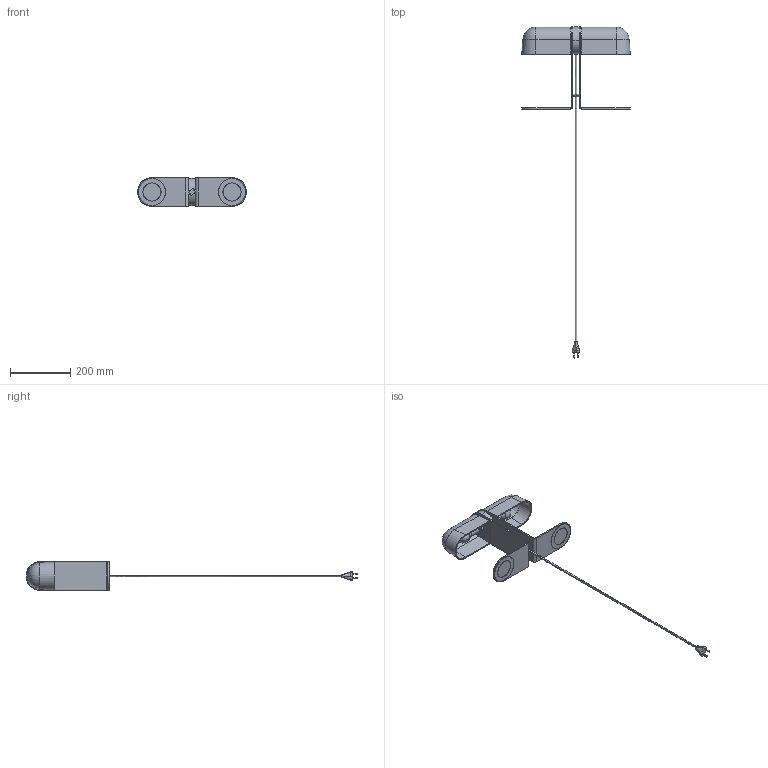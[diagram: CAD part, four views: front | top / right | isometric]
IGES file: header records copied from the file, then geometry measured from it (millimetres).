
Start section: SolidWorks IGES file using analytic representation for surfaces
Global section: file name: C:\SANTACOLE_PDM\Proyectos Catálogo\PROD-P17-006 -- LAMPARA ANDRE RICARD\6_Técnico comercial\3D\Duo CE UL.IGS; native system: SolidWorks 2021; preprocessor: SolidWorks 2021; author: clara.galimany; date: 221216.144452; units: millimetre
Bounding box: 360 x 1099 x 95 mm (x, y, z)
Surface area: 400803.5 mm2 (no closed solid volume)
Topology: 0 solids, 0 shells, 1246 faces, 16218 edges, 16192 vertices
Faces by surface type: bspline 820, revolution 426
